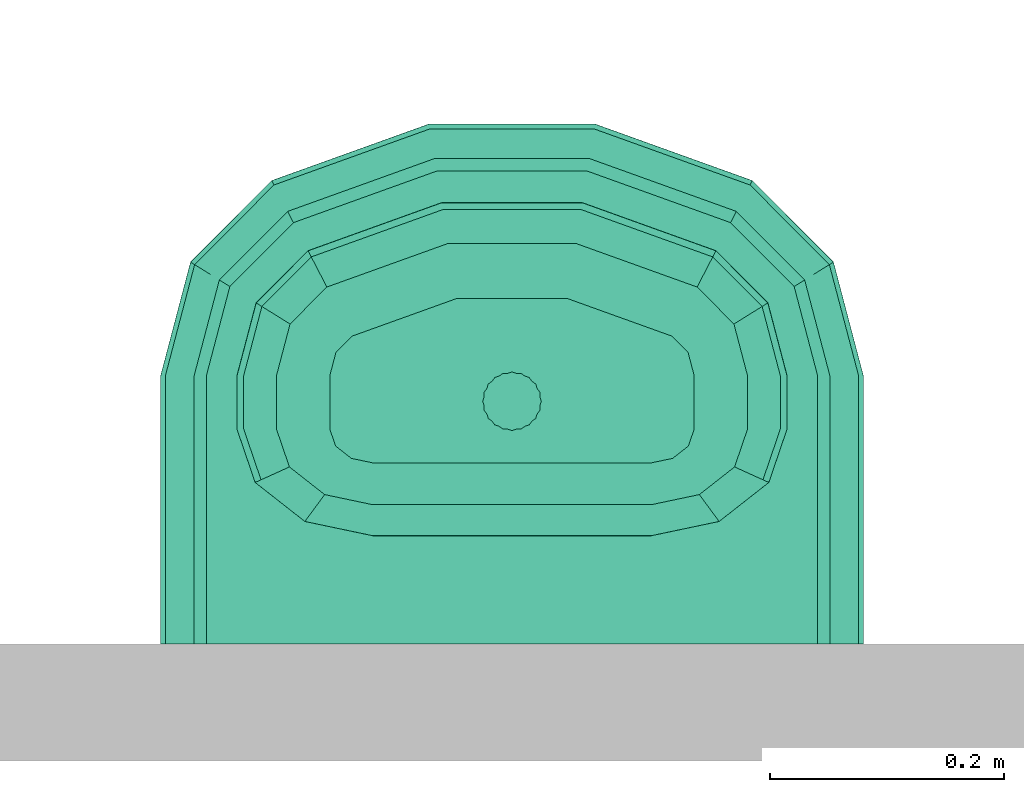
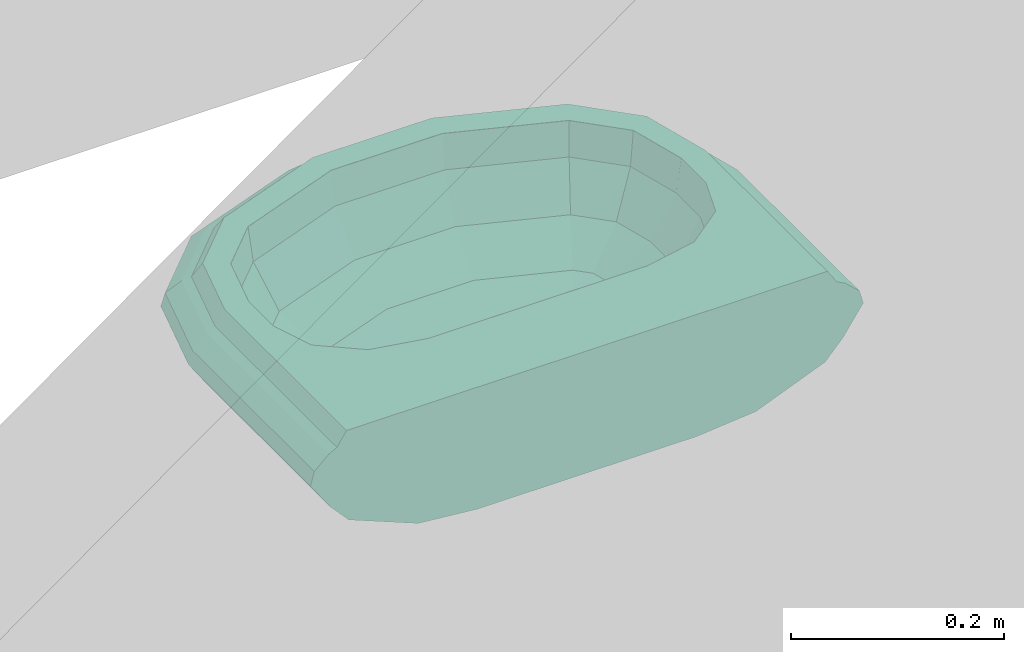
# One storey, part 41 of 48: 1 distribution flow element.
"""IFC2X3 building model written with IfcOpenShell, lengths in millimetres."""

from ifc_helpers import new_model, entity, si_unit, converted_unit, derived_unit, money_unit, direction, frame, origin_with_axes, place, context, subcontext, project, spatial, open_shell, faceted_brep, surface_model, source, transform, mapped, type_object, element, save


model = new_model("IFC2X3")

# Units and contexts
model_context = context("Model", 3, precision=0.01, world=origin_with_axes(), true_north=direction((0.0, 1.0)))
body_context = subcontext(model_context, "Body", "Model", "MODEL_VIEW")
ifc_project = project(units=[si_unit("LENGTHUNIT", "METRE", prefix="MILLI"), si_unit("AREAUNIT", "SQUARE_METRE"), si_unit("VOLUMEUNIT", "CUBIC_METRE"), converted_unit("PLANEANGLEUNIT", "DEGREE", entity("IfcPlaneAngleMeasure", 0.0174532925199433), si_unit("PLANEANGLEUNIT", "RADIAN"), dimensions=[0, 0, 0, 0, 0, 0, 0]), money_unit("USD"), converted_unit("TIMEUNIT", "Year", entity("IfcTimeMeasure", 31557600.0), si_unit("TIMEUNIT", "SECOND"), dimensions=[0, 0, 1, 0, 0, 0, 0]), si_unit("MASSUNIT", "GRAM", prefix="KILO"), si_unit("THERMODYNAMICTEMPERATUREUNIT", "DEGREE_CELSIUS"), si_unit("LUMINOUSINTENSITYUNIT", "LUMEN"), si_unit("ENERGYUNIT", "JOULE", prefix="MEGA"), derived_unit("THERMALCONDUCTANCEUNIT", [(si_unit("POWERUNIT", "WATT"), 1), (si_unit("LENGTHUNIT", "METRE"), -1), (si_unit("THERMODYNAMICTEMPERATUREUNIT", "KELVIN"), -1)]), derived_unit("SPECIFICHEATCAPACITYUNIT", [(si_unit("ENERGYUNIT", "JOULE"), 1), (si_unit("MASSUNIT", "GRAM", prefix="KILO"), -1), (si_unit("THERMODYNAMICTEMPERATUREUNIT", "KELVIN"), -1)]), derived_unit("MASSDENSITYUNIT", [(si_unit("MASSUNIT", "GRAM", prefix="KILO"), 1), (si_unit("VOLUMEUNIT", "CUBIC_METRE"), -1)])], contexts=[model_context])

# Site, building, storey
site_placement = place(None, origin_with_axes())
site = spatial("IfcSite", under=ifc_project, at=site_placement, Name="Site", CompositionType="ELEMENT")
building_placement = place(site_placement, origin_with_axes())
building = spatial("IfcBuilding", under=site, at=building_placement, Name="Building", CompositionType="ELEMENT")
storey_placement = place(building_placement, frame((0.0, 0.0, 3300.0), z_axis=(0.0, 0.0, 1.0), x_axis=(1.0, 0.0, 0.0)))
storey = spatial("IfcBuildingStorey", under=building, at=storey_placement, Name="1 ETG", CompositionType="ELEMENT", Elevation=3300.0)

# Distribution flow element
valve_type = type_object("IfcValveType", Name="Servant", PredefinedType="USERDEFINED")
shared_shape = source(origin_with_axes(), body_context, "Body", "SurfaceModel", [
    surface_model("IfcShellBasedSurfaceModel", [(-118.8260869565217, -229.090909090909, 880.0), (-155.5004347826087, -229.090909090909, 885.6030000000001), (-150.3400994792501, -248.7018865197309, 885.6030000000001), (-201.0339130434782, -229.090909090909, 916.175), (-189.4667012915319, -273.050131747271, 916.175), (-136.3112835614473, -262.7940626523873, 885.6030000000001), (-229.0121739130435, -229.090909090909, 962.175), (-213.508226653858, -288.0110260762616, 962.175), (-158.0202400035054, -304.6386188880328, 916.175), (-234.6521739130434, -229.090909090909, 999.9), (-218.3546395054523, -291.0269191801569, 999.9), (-171.3594108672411, -330.3502041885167, 962.175), (-234.7826086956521, -229.090909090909, 1000.0), (-218.4667212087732, -291.0966669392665, 1000.0), (-174.0483887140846, -335.5332762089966, 999.9), (-234.9130434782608, -229.090909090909, 1000.0), (-218.5788029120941, -291.166414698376, 1000.0), (-174.1105759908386, -335.653143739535, 1000.0), (-260.7130434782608, -229.090909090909, 1000.0), (-240.7485638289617, -304.9625214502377, 1000.0), (-174.1727632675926, -335.7730112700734, 1000.0), (-260.8434782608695, -229.090909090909, 1000.0), (-240.8606455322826, -305.0322692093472, 1000.0), (-186.4734066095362, -359.4828088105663, 1000.0), (-260.9739130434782, -229.090909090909, 999.9), (-240.9727272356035, -305.1020169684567, 999.9), (-186.5355938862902, -359.6026763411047, 1000.0), (-271.3017391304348, -229.090909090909, 984.298), (-249.8473565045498, -310.624644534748, 984.298), (-186.5977811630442, -359.722543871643, 999.9), (-280.154347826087, -229.090909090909, 979.6479999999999), (-257.4543417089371, -315.3584249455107, 979.6479999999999), (-191.5217697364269, -369.2136549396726, 984.298), (-295.8195652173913, -229.090909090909, 965.175), (-270.9153542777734, -323.7351308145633, 965.175), (-195.7424202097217, -377.3490642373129, 979.6479999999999), (-299.8408695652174, -229.090909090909, 950.0999999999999), (-274.3708331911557, -325.8854542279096, 950.0999999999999), (-203.2111121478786, -391.7451546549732, 965.175), (-299.971304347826, -229.090909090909, 950.0), (-274.4829148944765, -325.9552019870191, 950.0), (-205.1283458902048, -395.4406706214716, 950.0999999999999), (-299.8408695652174, -229.090909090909, 949.9), (-274.3708331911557, -325.8854542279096, 949.9), (-205.1905331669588, -395.56053815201, 950.0), (-278.1065217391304, -229.090909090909, 918.1), (-255.6946589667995, -314.2633851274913, 918.1), (-205.1283458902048, -395.4406706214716, 949.9), (-258.4943478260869, -229.090909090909, 896.627), (-238.8420540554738, -303.7761120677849, 896.627), (-194.7660799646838, -375.4671440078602, 918.1), (-183.1004347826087, -229.090909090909, 866.162), (-174.0565879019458, -263.460512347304, 866.162), (-185.4156010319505, -357.4438621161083, 896.627), (-118.8260869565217, -229.090909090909, 860.0), (-149.4701113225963, -288.1580321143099, 866.162)], [open_shell([[[0, 1, 2]], [[2, 1, 3, 4]], [[0, 2, 5]], [[4, 3, 6, 7]], [[5, 2, 4, 8]], [[7, 6, 9, 10]], [[8, 4, 7, 11]], [[10, 9, 12, 13]], [[11, 7, 10, 14]], [[13, 12, 15, 16]], [[14, 10, 13, 17]], [[16, 15, 18, 19]], [[17, 13, 16, 20]], [[19, 18, 21, 22]], [[20, 16, 19, 23]], [[22, 21, 24, 25]], [[23, 19, 22, 26]], [[25, 24, 27, 28]], [[26, 22, 25, 29]], [[28, 27, 30, 31]], [[29, 25, 28, 32]], [[31, 30, 33, 34]], [[32, 28, 31, 35]], [[34, 33, 36, 37]], [[35, 31, 34, 38]], [[37, 36, 39, 40]], [[38, 34, 37, 41]], [[40, 39, 42, 43]], [[41, 37, 40, 44]], [[43, 42, 45, 46]], [[44, 40, 43, 47]], [[46, 45, 48, 49]], [[47, 43, 46, 50]], [[49, 48, 51, 52]], [[50, 46, 49, 53]], [[52, 51, 54]], [[53, 49, 52, 55]], [[55, 52, 54]]])]),
    surface_model("IfcShellBasedSurfaceModel", [(118.8260869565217, -229.090909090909, 880.0), (136.3112835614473, -262.7940626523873, 885.6030000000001), (150.3400994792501, -248.7018865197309, 885.6030000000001), (158.0202400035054, -304.6386188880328, 916.175), (189.4667012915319, -273.050131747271, 916.175), (155.5004347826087, -229.090909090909, 885.6030000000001), (171.3594108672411, -330.3502041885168, 962.175), (213.508226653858, -288.0110260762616, 962.175), (201.0339130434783, -229.0909090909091, 916.175), (174.0483887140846, -335.5332762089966, 999.9), (218.3546395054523, -291.026919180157, 999.9), (229.0121739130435, -229.0909090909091, 962.175), (174.1105759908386, -335.653143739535, 1000.0), (218.4667212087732, -291.0966669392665, 1000.0), (234.6521739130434, -229.0909090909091, 999.9), (174.1727632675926, -335.7730112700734, 1000.0), (218.5788029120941, -291.166414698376, 1000.0), (234.7826086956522, -229.0909090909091, 1000.0), (186.4734066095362, -359.4828088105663, 1000.0), (240.7485638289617, -304.9625214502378, 1000.0), (234.9130434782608, -229.0909090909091, 1000.0), (186.5355938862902, -359.6026763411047, 1000.0), (240.8606455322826, -305.0322692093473, 1000.0), (260.7130434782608, -229.0909090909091, 1000.0), (186.5977811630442, -359.7225438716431, 999.9), (240.9727272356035, -305.1020169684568, 999.9), (260.8434782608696, -229.0909090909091, 1000.0), (191.5217697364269, -369.2136549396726, 984.298), (249.8473565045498, -310.6246445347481, 984.298), (260.9739130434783, -229.0909090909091, 999.9), (195.7424202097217, -377.3490642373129, 979.6479999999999), (257.4543417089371, -315.3584249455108, 979.6479999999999), (271.3017391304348, -229.0909090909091, 984.298), (203.2111121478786, -391.7451546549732, 965.175), (270.9153542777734, -323.7351308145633, 965.175), (280.154347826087, -229.0909090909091, 979.6479999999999), (205.1283458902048, -395.4406706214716, 950.0999999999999), (274.3708331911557, -325.8854542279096, 950.0999999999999), (295.8195652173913, -229.0909090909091, 965.175), (205.1905331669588, -395.56053815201, 950.0), (274.4829148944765, -325.9552019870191, 950.0), (299.8408695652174, -229.0909090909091, 950.0999999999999), (205.1283458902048, -395.4406706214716, 949.9), (274.3708331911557, -325.8854542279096, 949.9), (299.971304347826, -229.0909090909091, 950.0), (194.7660799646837, -375.4671440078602, 918.1), (255.6946589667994, -314.2633851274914, 918.1), (299.8408695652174, -229.0909090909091, 949.9), (185.4156010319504, -357.4438621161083, 896.627), (238.8420540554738, -303.776112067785, 896.627), (278.1065217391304, -229.0909090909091, 918.1), (149.4701113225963, -288.1580321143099, 866.162), (174.0565879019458, -263.460512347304, 866.162), (258.4943478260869, -229.0909090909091, 896.627), (118.8260869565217, -229.090909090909, 860.0), (183.1004347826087, -229.090909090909, 866.162)], [open_shell([[[0, 1, 2]], [[2, 1, 3, 4]], [[0, 2, 5]], [[4, 3, 6, 7]], [[5, 2, 4, 8]], [[7, 6, 9, 10]], [[8, 4, 7, 11]], [[10, 9, 12, 13]], [[11, 7, 10, 14]], [[13, 12, 15, 16]], [[14, 10, 13, 17]], [[16, 15, 18, 19]], [[17, 13, 16, 20]], [[19, 18, 21, 22]], [[20, 16, 19, 23]], [[22, 21, 24, 25]], [[23, 19, 22, 26]], [[25, 24, 27, 28]], [[26, 22, 25, 29]], [[28, 27, 30, 31]], [[29, 25, 28, 32]], [[31, 30, 33, 34]], [[32, 28, 31, 35]], [[34, 33, 36, 37]], [[35, 31, 34, 38]], [[37, 36, 39, 40]], [[38, 34, 37, 41]], [[40, 39, 42, 43]], [[41, 37, 40, 44]], [[43, 42, 45, 46]], [[44, 40, 43, 47]], [[46, 45, 48, 49]], [[47, 43, 46, 50]], [[49, 48, 51, 52]], [[50, 46, 49, 53]], [[52, 51, 54]], [[53, 49, 52, 55]], [[55, 52, 54]]])]),
    surface_model("IfcShellBasedSurfaceModel", [(-41.10372390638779, -257.0233893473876, 880.0), (-118.8398858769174, -229.0668508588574, 880.0), (-136.325082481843, -262.7700044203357, 885.6030000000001), (-47.15141310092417, -294.8398552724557, 885.6030000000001), (-158.0340389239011, -304.6145606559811, 916.175), (-54.65999446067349, -341.7913440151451, 916.175), (41.10329481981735, -257.0234643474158, 880.0), (47.15092088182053, -294.8399413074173, 885.6030000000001), (-171.3732097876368, -330.3261459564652, 962.175), (-59.27367775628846, -370.6409081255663, 962.175), (54.65942385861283, -341.7914437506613, 916.175), (118.8395034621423, -229.0670677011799, 880.0), (136.3246438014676, -262.7702531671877, 885.6030000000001), (-174.0621876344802, -335.509217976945, 999.9), (-60.2037274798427, -376.4565498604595, 999.9), (59.27305899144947, -370.6410162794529, 962.175), (158.033530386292, -304.614849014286, 916.175), (-174.1243749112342, -335.6290855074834, 1000.0), (-60.22523649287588, -376.5910466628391, 1000.0), (60.20309900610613, -376.4566597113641, 999.9), (171.3726583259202, -330.3264586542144, 962.175), (-174.1865621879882, -335.7489530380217, 1000.0), (-60.24674550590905, -376.7255434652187, 1000.0), (60.2246077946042, -376.5911565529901, 1000.0), (174.061627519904, -335.5095355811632, 999.9), (-186.4996429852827, -359.4827240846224, 1000.0), (-64.5055300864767, -403.3559103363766, 1000.0), (60.24611658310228, -376.7256533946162, 1000.0), (174.1238145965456, -335.629403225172, 1000.0), (-186.5618302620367, -359.6025916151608, 1000.0), (-64.52703909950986, -403.4904071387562, 1000.0), (64.50485670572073, -403.3560280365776, 1000.0), (174.1860016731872, -335.749270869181, 1000.0), (-186.6240175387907, -359.7224591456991, 999.9), (-64.54854811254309, -403.6249039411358, 999.9), (64.52636549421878, -403.4905248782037, 1000.0), (186.4990428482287, -359.4830643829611, 1000.0), (-191.5355686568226, -369.189596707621, 984.298), (-66.24732996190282, -414.2474613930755, 984.298), (64.54787428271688, -403.6250217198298, 999.9), (186.5612299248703, -359.6029320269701, 1000.0), (-195.7562191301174, -377.3250060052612, 979.6479999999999), (-67.70714667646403, -423.3757593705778, 979.6479999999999), (66.24663839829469, -414.2475822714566, 984.298), (186.623417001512, -359.7227996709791, 999.9), (-203.2249110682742, -391.7210964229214, 965.175), (-70.29037914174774, -439.528825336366, 965.175), (67.70643987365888, -423.3758829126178, 979.6479999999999), (191.5349523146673, -369.1899461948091, 984.298), (-205.1421448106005, -395.4166123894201, 950.0999999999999), (-70.95350201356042, -443.6753617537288, 950.0999999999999), (70.28964537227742, -439.5289535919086, 965.175), (195.7555892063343, -377.3253631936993, 979.6479999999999), (-205.2043320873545, -395.5364799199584, 950.0), (-70.97501102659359, -443.8098585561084, 950.0), (70.95276132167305, -443.6754912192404, 950.0999999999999), (203.2242571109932, -391.7214672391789, 965.175), (-205.1421448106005, -395.4166123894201, 949.9), (-70.95350201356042, -443.6753617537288, 949.9), (70.9742701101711, -443.8099880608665, 950.0), (205.1414846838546, -395.4169867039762, 950.0999999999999), (-194.7798788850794, -375.4430857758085, 918.1), (-67.36945517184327, -421.2641595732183, 918.1), (70.95276132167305, -443.6754912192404, 949.9), (205.2036717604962, -395.5368543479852, 950.0), (-185.4293999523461, -357.4198038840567, 896.627), (-64.13535997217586, -401.0412203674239, 896.627), (67.36875189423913, -421.2642824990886, 918.1), (205.1414846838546, -395.4169867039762, 949.9), (-149.483910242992, -288.1339738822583, 866.162), (-51.70272025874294, -323.2993786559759, 866.162), (64.13469045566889, -401.041337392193, 896.627), (194.7792521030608, -375.4434411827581, 918.1), (-118.8398858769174, -229.0668508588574, 860.0), (-41.10372390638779, -257.0233893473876, 860.0), (51.70218052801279, -323.2994729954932, 866.162), (185.4288032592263, -357.4201422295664, 896.627), (41.10329481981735, -257.0234643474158, 860.0), (149.4834292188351, -288.13424663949, 866.162), (118.8395034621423, -229.0670677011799, 860.0)], [open_shell([[[0, 1, 2, 3]], [[3, 2, 4, 5]], [[6, 0, 3, 7]], [[5, 4, 8, 9]], [[7, 3, 5, 10]], [[11, 6, 7, 12]], [[9, 8, 13, 14]], [[10, 5, 9, 15]], [[12, 7, 10, 16]], [[14, 13, 17, 18]], [[15, 9, 14, 19]], [[16, 10, 15, 20]], [[18, 17, 21, 22]], [[19, 14, 18, 23]], [[20, 15, 19, 24]], [[22, 21, 25, 26]], [[23, 18, 22, 27]], [[24, 19, 23, 28]], [[26, 25, 29, 30]], [[27, 22, 26, 31]], [[28, 23, 27, 32]], [[30, 29, 33, 34]], [[31, 26, 30, 35]], [[32, 27, 31, 36]], [[34, 33, 37, 38]], [[35, 30, 34, 39]], [[36, 31, 35, 40]], [[38, 37, 41, 42]], [[39, 34, 38, 43]], [[40, 35, 39, 44]], [[42, 41, 45, 46]], [[43, 38, 42, 47]], [[44, 39, 43, 48]], [[46, 45, 49, 50]], [[47, 42, 46, 51]], [[48, 43, 47, 52]], [[50, 49, 53, 54]], [[51, 46, 50, 55]], [[52, 47, 51, 56]], [[54, 53, 57, 58]], [[55, 50, 54, 59]], [[56, 51, 55, 60]], [[58, 57, 61, 62]], [[59, 54, 58, 63]], [[60, 55, 59, 64]], [[62, 61, 65, 66]], [[63, 58, 62, 67]], [[64, 59, 63, 68]], [[66, 65, 69, 70]], [[67, 62, 66, 71]], [[68, 63, 67, 72]], [[70, 69, 73, 74]], [[71, 66, 70, 75]], [[72, 67, 71, 76]], [[75, 70, 74, 77]], [[76, 71, 75, 78]], [[78, 75, 77, 79]]])]),
    surface_model("IfcShellBasedSurfaceModel", [(-118.8260869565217, -183.2727272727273, 860.0), (-183.1004347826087, -183.2727272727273, 866.162), (-183.1004347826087, -229.0909090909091, 866.162), (-118.8260869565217, -229.0909090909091, 860.0), (-258.4943478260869, -183.2727272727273, 896.627), (-258.4943478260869, -229.0909090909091, 896.627), (-278.1065217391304, -183.2727272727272, 918.1), (-278.1065217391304, -229.0909090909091, 918.1), (-299.971304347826, -183.2727272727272, 950.0), (-299.971304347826, -229.090909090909, 950.0), (-295.8195652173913, -183.2727272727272, 965.175), (-295.8195652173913, -229.090909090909, 965.175), (-280.154347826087, -183.2727272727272, 979.6479999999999), (-280.154347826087, -229.090909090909, 979.6479999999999), (-271.3017391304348, -183.2727272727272, 984.298), (-271.3017391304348, -229.090909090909, 984.298), (-260.8434782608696, -183.2727272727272, 1000.0), (-260.8434782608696, -229.090909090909, 1000.0), (-234.7826086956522, -183.2727272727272, 1000.0), (-234.7826086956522, -229.090909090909, 1000.0), (-229.0121739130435, -183.2727272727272, 962.175), (-229.0121739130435, -229.0909090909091, 962.175), (-201.0339130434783, -183.2727272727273, 916.175), (-201.0339130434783, -229.0909090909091, 916.175), (-155.5004347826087, -183.2727272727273, 885.6030000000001), (-155.5004347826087, -229.0909090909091, 885.6030000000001), (-118.8260869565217, -183.2727272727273, 880.0), (-118.8260869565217, -229.0909090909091, 880.0)], [open_shell([[[0, 1, 2, 3]], [[1, 4, 5, 2]], [[4, 6, 7, 5]], [[6, 8, 9, 7]], [[8, 10, 11, 9]], [[10, 12, 13, 11]], [[12, 14, 15, 13]], [[14, 16, 17, 15]], [[16, 18, 19, 17]], [[18, 20, 21, 19]], [[20, 22, 23, 21]], [[22, 24, 25, 23]], [[24, 26, 27, 25]]])]),
    surface_model("IfcShellBasedSurfaceModel", [(118.8260869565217, -183.2727272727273, 860.0), (118.8260869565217, -229.0909090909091, 860.0), (183.1004347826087, -229.0909090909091, 866.162), (183.1004347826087, -183.2727272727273, 866.162), (258.4943478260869, -229.0909090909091, 896.627), (258.4943478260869, -183.2727272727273, 896.627), (278.1065217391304, -229.0909090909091, 918.1), (278.1065217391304, -183.2727272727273, 918.1), (299.971304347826, -229.0909090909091, 950.0), (299.971304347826, -183.2727272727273, 950.0), (295.8195652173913, -229.0909090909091, 965.175), (295.8195652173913, -183.2727272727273, 965.175), (280.154347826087, -229.0909090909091, 979.6479999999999), (280.154347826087, -183.2727272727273, 979.6479999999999), (271.3017391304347, -229.0909090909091, 984.298), (271.3017391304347, -183.2727272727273, 984.298), (260.8434782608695, -229.0909090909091, 1000.0), (260.8434782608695, -183.2727272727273, 1000.0), (234.7826086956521, -229.0909090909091, 1000.0), (234.7826086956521, -183.2727272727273, 1000.0), (229.0121739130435, -229.0909090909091, 962.175), (229.0121739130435, -183.2727272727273, 962.175), (201.0339130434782, -229.0909090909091, 916.175), (201.0339130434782, -183.2727272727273, 916.175), (155.5004347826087, -229.0909090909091, 885.6030000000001), (155.5004347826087, -183.2727272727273, 885.6030000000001), (118.8260869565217, -229.0909090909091, 880.0), (118.8260869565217, -183.2727272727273, 880.0)], [open_shell([[[0, 1, 2, 3]], [[3, 2, 4, 5]], [[5, 4, 6, 7]], [[7, 6, 8, 9]], [[9, 8, 10, 11]], [[11, 10, 12, 13]], [[13, 12, 14, 15]], [[15, 14, 16, 17]], [[17, 16, 18, 19]], [[19, 18, 20, 21]], [[21, 20, 22, 23]], [[23, 22, 24, 25]], [[25, 24, 26, 27]]])]),
    surface_model("IfcShellBasedSurfaceModel", [(-118.8260869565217, 0.0, 860.0), (-183.1004347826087, 0.0, 866.162), (-183.1004347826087, -183.2727272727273, 866.162), (-118.8260869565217, -183.2727272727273, 860.0), (-258.4943478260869, 0.0, 896.627), (-258.4943478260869, -183.2727272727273, 896.627), (-278.1065217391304, 0.0, 918.1), (-278.1065217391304, -183.2727272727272, 918.1), (-299.971304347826, 0.0, 950.0), (-299.971304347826, -183.2727272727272, 950.0), (-295.8195652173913, 0.0, 965.175), (-295.8195652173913, -183.2727272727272, 965.175), (-280.154347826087, 0.0, 979.6479999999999), (-280.154347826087, -183.2727272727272, 979.6479999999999), (-271.3017391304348, 0.0, 984.298), (-271.3017391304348, -183.2727272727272, 984.298), (-260.8434782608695, 0.0, 1000.0), (-260.8434782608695, -183.2727272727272, 1000.0)], [open_shell([[[0, 1, 2, 3]], [[1, 4, 5, 2]], [[4, 6, 7, 5]], [[6, 8, 9, 7]], [[8, 10, 11, 9]], [[10, 12, 13, 11]], [[12, 14, 15, 13]], [[14, 16, 17, 15]]])]),
    surface_model("IfcShellBasedSurfaceModel", [(118.8260869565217, 0.0, 860.0), (118.8260869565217, -183.2727272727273, 860.0), (183.1004347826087, -183.2727272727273, 866.162), (183.1004347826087, 0.0, 866.162), (258.4943478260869, -183.2727272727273, 896.627), (258.4943478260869, 0.0, 896.627), (278.1065217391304, -183.2727272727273, 918.1), (278.1065217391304, 0.0, 918.1), (299.971304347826, -183.2727272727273, 950.0), (299.971304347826, 0.0, 950.0), (295.8195652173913, -183.2727272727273, 965.175), (295.8195652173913, 0.0, 965.175), (280.154347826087, -183.2727272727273, 979.6479999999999), (280.154347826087, 0.0, 979.6479999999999), (271.3017391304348, -183.2727272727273, 984.298), (271.3017391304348, 0.0, 984.298), (260.8434782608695, -183.2727272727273, 1000.0), (260.8434782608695, 0.0, 1000.0)], [open_shell([[[0, 1, 2, 3]], [[3, 2, 4, 5]], [[5, 4, 6, 7]], [[7, 6, 8, 9]], [[9, 8, 10, 11]], [[11, 10, 12, 13]], [[13, 12, 14, 15]], [[15, 14, 16, 17]]])]),
    surface_model("IfcShellBasedSurfaceModel", [(-118.8260869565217, 0.0, 860.0), (118.8260869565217, 0.0, 860.0), (118.8260869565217, -229.090909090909, 860.0), (41.0982368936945, -257.0388174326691, 860.0), (-41.09823689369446, -257.0388174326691, 860.0), (-118.8260869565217, -229.090909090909, 860.0)], [open_shell([[[0, 1, 2, 3, 4, 5]]])]),
    surface_model("IfcShellBasedSurfaceModel", [(-118.8379695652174, 0.0, 860.0), (-183.118744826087, 0.0, 866.1626162), (-258.5201972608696, 0.0, 896.6306627), (-278.1343323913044, 0.0, 918.10581), (-300.0013014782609, 0.0, 950.009), (-295.849147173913, 0.0, 965.1855175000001), (-280.1823632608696, 0.0, 979.6599647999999), (-271.3288693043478, 0.0, 984.3104298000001), (-260.8695626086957, 0.0, 1000.014), (260.8695626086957, 0.0, 1000.014), (271.3288693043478, 0.0, 984.3104298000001), (280.1823632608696, 0.0, 979.6599647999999), (295.849147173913, 0.0, 965.1855175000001), (300.0013014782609, 0.0, 950.009), (278.1343323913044, 0.0, 918.10581), (258.5201972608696, 0.0, 896.6306627), (183.118744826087, 0.0, 866.1626162), (118.8379695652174, 0.0, 860.0)], [open_shell([[[0, 1, 2, 3, 4, 5, 6, 7, 8, 9, 10, 11, 12, 13, 14, 15, 16, 17]]])]),
    surface_model("IfcShellBasedSurfaceModel", [(-118.8260869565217, -182.7272727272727, 880.0), (118.8260869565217, -182.7272727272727, 880.0), (118.8260869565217, -229.090909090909, 880.0), (41.0982368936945, -257.0388174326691, 880.0), (-41.09823689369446, -257.0388174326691, 880.0), (-118.8260869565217, -229.090909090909, 880.0), (22.82608695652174, -207.1363636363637, 880.0), (21.70889874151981, -199.762094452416, 880.0), (18.46669226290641, -193.1096701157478, 880.0), (13.41683728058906, -187.8302762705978, 880.0), (7.053648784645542, -184.4406967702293, 880.0), (0.0, -183.2727272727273, 880.0), (-7.053648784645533, -184.4406967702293, 880.0), (-13.41683728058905, -187.8302762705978, 880.0), (-18.4666922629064, -193.1096701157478, 880.0), (-21.70889874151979, -199.762094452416, 880.0), (-22.82608695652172, -207.1363636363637, 880.0), (-21.7088987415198, -214.5106328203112, 880.0), (-18.4666922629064, -221.1630571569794, 880.0), (-13.41683728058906, -226.4424510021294, 880.0), (-7.053648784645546, -229.8320305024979, 880.0), (0.0, -231.0, 880.0), (7.05364878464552, -229.832030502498, 880.0), (13.41683728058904, -226.4424510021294, 880.0), (18.46669226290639, -221.1630571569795, 880.0), (21.70889874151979, -214.5106328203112, 880.0)], [open_shell([[[0, 1, 2, 3, 4, 5], [6, 7, 8, 9, 10, 11, 12, 13, 14, 15, 16, 17, 18, 19, 20, 21, 22, 23, 24, 25]]])]),
    surface_model("IfcShellBasedSurfaceModel", [(-260.8695652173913, -183.2391344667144, 1000.0), (-260.8695652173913, 4.141527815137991e-07, 1000.0), (260.8695652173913, 4.141527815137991e-07, 1000.0), (260.8695652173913, -183.2391344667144, 1000.0), (234.7826086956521, -183.2391344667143, 1000.0), (219.2473805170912, -137.7618617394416, 1000.0), (176.8043478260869, -104.4701875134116, 1000.0), (118.8260869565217, -92.28458901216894, 1000.0), (-118.8260869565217, -92.28458901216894, 1000.0), (-176.8043478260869, -104.4701875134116, 1000.0), (-219.2473805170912, -137.7618617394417, 1000.0), (-234.7826086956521, -183.2391344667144, 1000.0)], [open_shell([[[0, 1, 2, 3, 4, 5, 6, 7, 8, 9, 10, 11]]])]),
    surface_model("IfcShellBasedSurfaceModel", [(-176.8043478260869, -104.5037803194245, 1000.0), (-118.8260869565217, -92.3181818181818, 1000.0), (-118.8260869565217, -96.84442376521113, 962.175), (-173.9191304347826, -108.4236208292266, 962.175), (-118.8260869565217, -118.7901492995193, 916.175), (-159.9299999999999, -127.4291766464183, 916.175), (-219.2473805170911, -137.7954545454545, 1000.0), (-214.2500374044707, -140.0585755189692, 962.175), (-118.8260869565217, -154.5059223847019, 885.6030000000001), (-137.1632608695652, -158.3599434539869, 885.6030000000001), (-190.0201527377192, -151.0314382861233, 916.175), (-234.7826086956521, -183.2727272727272, 1000.0), (-229.0121739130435, -183.2727272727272, 962.175), (-118.8260869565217, -183.2727272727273, 880.0), (-150.5870038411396, -168.8893248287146, 885.6030000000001), (-201.0339130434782, -183.2727272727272, 916.175), (-155.5004347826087, -183.2727272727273, 885.6030000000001)], [open_shell([[[0, 1, 2, 3]], [[3, 2, 4, 5]], [[6, 0, 3, 7]], [[5, 4, 8, 9]], [[7, 3, 5, 10]], [[11, 6, 7, 12]], [[9, 8, 13]], [[10, 5, 9, 14]], [[12, 7, 10, 15]], [[14, 9, 13]], [[15, 10, 14, 16]], [[16, 14, 13]]])]),
    surface_model("IfcShellBasedSurfaceModel", [(219.2473805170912, -137.7954545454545, 1000.0), (234.7826086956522, -183.2727272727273, 1000.0), (229.0121739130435, -183.2727272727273, 962.175), (214.2500374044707, -140.0585755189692, 962.175), (201.0339130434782, -183.2727272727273, 916.175), (190.0201527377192, -151.0314382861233, 916.175), (176.8043478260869, -104.5037803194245, 1000.0), (173.9191304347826, -108.4236208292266, 962.175), (155.5004347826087, -183.2727272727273, 885.6030000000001), (150.5870038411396, -168.8893248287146, 885.6030000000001), (159.93, -127.4291766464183, 916.175), (118.8260869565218, -92.3181818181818, 1000.0), (118.8260869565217, -96.84442376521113, 962.175), (118.8260869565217, -183.2727272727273, 880.0), (137.1632608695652, -158.3599434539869, 885.6030000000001), (118.8260869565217, -118.7901492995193, 916.175), (118.8260869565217, -154.5059223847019, 885.6030000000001)], [open_shell([[[0, 1, 2, 3]], [[3, 2, 4, 5]], [[6, 0, 3, 7]], [[5, 4, 8, 9]], [[7, 3, 5, 10]], [[11, 6, 7, 12]], [[9, 8, 13]], [[10, 5, 9, 14]], [[12, 7, 10, 15]], [[14, 9, 13]], [[15, 10, 14, 16]], [[16, 14, 13]]])]),
    surface_model("IfcShellBasedSurfaceModel", [(118.8260869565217, -92.3181818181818, 1000.0), (118.8260869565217, -96.84442376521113, 962.175), (-118.8260869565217, -96.84442376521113, 962.175), (-118.8260869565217, -92.3181818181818, 1000.0), (118.8260869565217, -118.7901492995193, 916.175), (-118.8260869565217, -118.7901492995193, 916.175), (118.8260869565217, -154.5059223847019, 885.6030000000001), (-118.8260869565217, -154.5059223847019, 885.6030000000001), (118.8260869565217, -183.2727272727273, 880.0), (-118.8260869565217, -183.2727272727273, 880.0)], [open_shell([[[0, 1, 2, 3]], [[1, 4, 5, 2]], [[4, 6, 7, 5]], [[6, 8, 9, 7]]])]),
    faceted_brep([(20.22542485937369, -221.8296313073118, 881.0), (7.725424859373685, -230.9114129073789, 881.0), (-7.725424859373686, -230.9114129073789, 881.0), (-20.22542485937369, -221.8296313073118, 881.0), (-25.0, -207.135, 881.0), (-20.22542485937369, -192.4403686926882, 881.0), (-7.725424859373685, -183.3585870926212, 881.0), (7.725424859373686, -183.3585870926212, 881.0), (20.22542485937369, -192.4403686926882, 881.0), (25.0, -207.135, 881.0), (20.22542485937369, -221.8296313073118, 886.0), (7.725424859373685, -230.9114129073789, 886.0), (-7.725424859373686, -230.9114129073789, 886.0), (-20.22542485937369, -221.8296313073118, 886.0), (-25.0, -207.135, 886.0), (-20.22542485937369, -192.4403686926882, 886.0), (-7.725424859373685, -183.3585870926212, 886.0), (7.725424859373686, -183.3585870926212, 886.0), (20.22542485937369, -192.4403686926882, 886.0), (25.0, -207.135, 886.0)], [[[0, 1, 2, 3, 4, 5, 6, 7, 8, 9]], [[1, 0, 10, 11]], [[2, 1, 11, 12]], [[3, 2, 12, 13]], [[4, 3, 13, 14]], [[5, 4, 14, 15]], [[6, 5, 15, 16]], [[7, 6, 16, 17]], [[8, 7, 17, 18]], [[9, 8, 18, 19]], [[0, 9, 19, 10]], [[10, 19, 18, 17, 16, 15, 14, 13, 12, 11]]]),
    surface_model("IfcShellBasedSurfaceModel", [(0.0, -207.135, 888.0), (0.0, -194.51309443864, 887.4975737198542), (-7.418969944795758, -196.9236638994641, 887.4975737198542), (7.418969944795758, -196.9236638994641, 887.4975737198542), (0.0, -182.135, 886.0), (-14.69463130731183, -186.9095751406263, 886.0), (-12.00414553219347, -203.2346166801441, 887.4975737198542), (12.00414553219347, -203.2346166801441, 887.4975737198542), (14.69463130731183, -186.9095751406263, 886.0), (-23.77641290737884, -199.4095751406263, 886.0), (-12.00414553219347, -211.0353833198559, 887.4975737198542), (12.00414553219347, -211.0353833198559, 887.4975737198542), (23.77641290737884, -199.4095751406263, 886.0), (-23.77641290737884, -214.8604248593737, 886.0), (-7.418969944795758, -217.3463361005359, 887.4975737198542), (7.418969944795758, -217.3463361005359, 887.4975737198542), (23.77641290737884, -214.8604248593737, 886.0), (-14.69463130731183, -227.3604248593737, 886.0), (0.0, -219.75690556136, 887.4975737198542), (14.69463130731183, -227.3604248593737, 886.0), (0.0, -232.135, 886.0)], [open_shell([[[0, 1, 2]], [[0, 3, 1]], [[2, 1, 4, 5]], [[0, 2, 6]], [[0, 7, 3]], [[1, 3, 8, 4]], [[6, 2, 5, 9]], [[0, 6, 10]], [[0, 11, 7]], [[3, 7, 12, 8]], [[10, 6, 9, 13]], [[0, 10, 14]], [[0, 15, 11]], [[7, 11, 16, 12]], [[14, 10, 13, 17]], [[0, 14, 18]], [[0, 18, 15]], [[11, 15, 19, 16]], [[18, 14, 17, 20]], [[15, 18, 20, 19]]])]),
])
distribution_flow_element_placement = place(storey_placement, frame((41250.00827475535, 24419.92557171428, 100.0000000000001), z_axis=(0.0, 0.0, 1.0), x_axis=(-1.0, 0.0, 0.0)))
element("IfcDistributionFlowElement", 1, at=distribution_flow_element_placement, inside=storey, type_object=valve_type, Name="FU - 001", ObjectType="Distribution Flow Element", context=body_context, shape_type="MappedRepresentation", body=[
    mapped(shared_shape, transform((0.0, 0.0, 0.0))),
])

save(model, "model.ifc")
